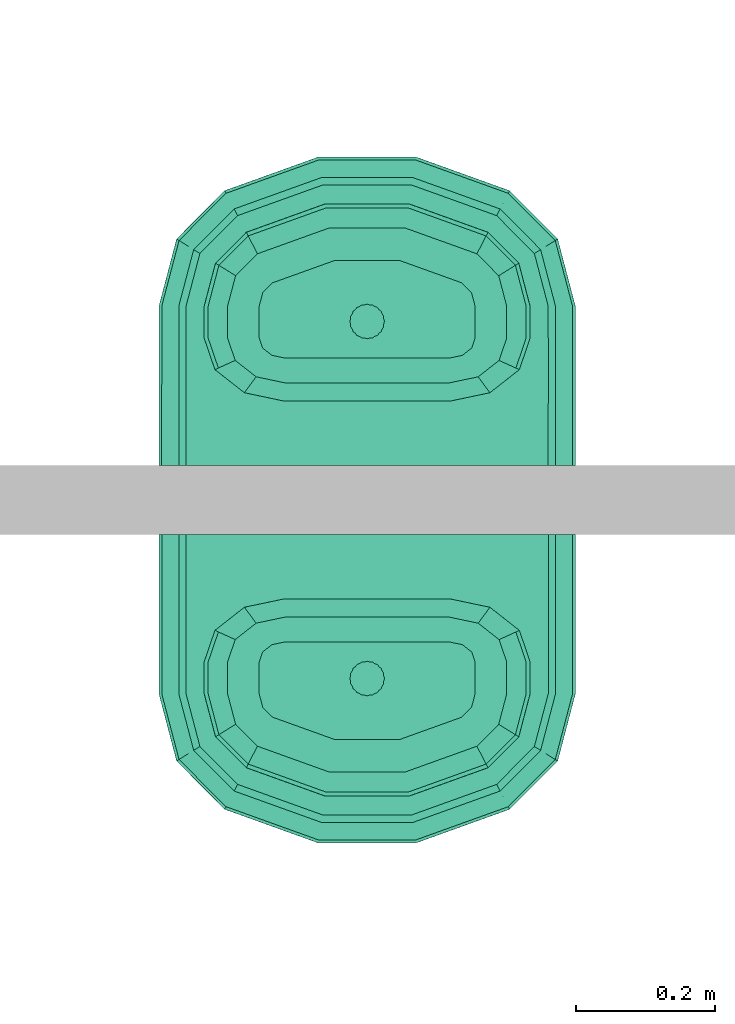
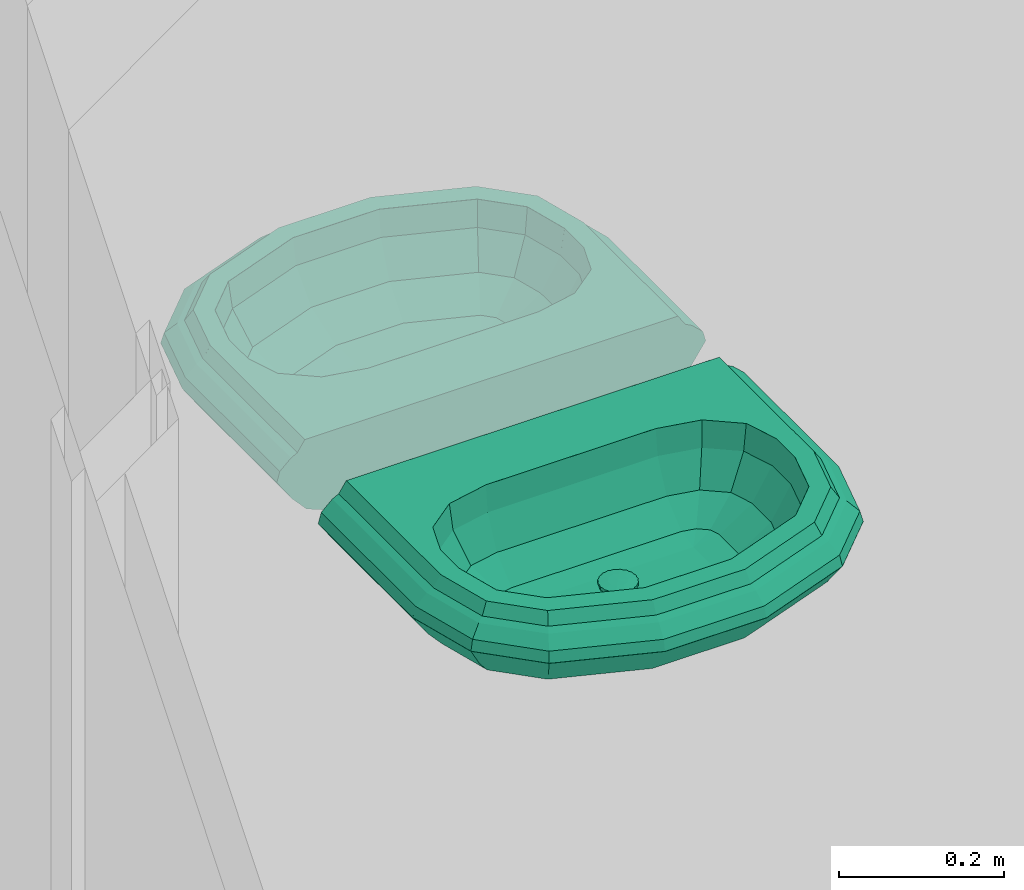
# One storey, part 22 of 25: 2 distribution flow elements.
"""IFC2X3 building model written with IfcOpenShell, lengths in millimetres."""

from ifc_helpers import new_model, entity, si_unit, converted_unit, derived_unit, money_unit, direction, frame, origin_with_axes, place, context, subcontext, project, spatial, open_shell, faceted_brep, surface_model, source, transform, mapped, type_object, element, save


model = new_model("IFC2X3")

# Units and contexts
model_context = context("Model", 3, precision=0.01, world=origin_with_axes(), true_north=direction((0.0, 1.0)))
body_context = subcontext(model_context, "Body", "Model", "MODEL_VIEW")
ifc_project = project(units=[si_unit("LENGTHUNIT", "METRE", prefix="MILLI"), si_unit("AREAUNIT", "SQUARE_METRE"), si_unit("VOLUMEUNIT", "CUBIC_METRE"), converted_unit("PLANEANGLEUNIT", "DEGREE", entity("IfcPlaneAngleMeasure", 0.0174532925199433), si_unit("PLANEANGLEUNIT", "RADIAN"), dimensions=[0, 0, 0, 0, 0, 0, 0]), money_unit("USD"), converted_unit("TIMEUNIT", "Year", entity("IfcTimeMeasure", 31557600.0), si_unit("TIMEUNIT", "SECOND"), dimensions=[0, 0, 1, 0, 0, 0, 0]), si_unit("MASSUNIT", "GRAM", prefix="KILO"), si_unit("THERMODYNAMICTEMPERATUREUNIT", "DEGREE_CELSIUS"), si_unit("LUMINOUSINTENSITYUNIT", "LUMEN"), si_unit("ENERGYUNIT", "JOULE", prefix="MEGA"), derived_unit("THERMALCONDUCTANCEUNIT", [(si_unit("POWERUNIT", "WATT"), 1), (si_unit("LENGTHUNIT", "METRE"), -1), (si_unit("THERMODYNAMICTEMPERATUREUNIT", "KELVIN"), -1)]), derived_unit("SPECIFICHEATCAPACITYUNIT", [(si_unit("ENERGYUNIT", "JOULE"), 1), (si_unit("MASSUNIT", "GRAM", prefix="KILO"), -1), (si_unit("THERMODYNAMICTEMPERATUREUNIT", "KELVIN"), -1)]), derived_unit("MASSDENSITYUNIT", [(si_unit("MASSUNIT", "GRAM", prefix="KILO"), 1), (si_unit("VOLUMEUNIT", "CUBIC_METRE"), -1)])], contexts=[model_context])

# Site, building, storey
site_placement = place(None, origin_with_axes())
site = spatial("IfcSite", under=ifc_project, at=site_placement, Name="Site", CompositionType="ELEMENT")
building_placement = place(site_placement, origin_with_axes())
building = spatial("IfcBuilding", under=site, at=building_placement, Name="Building", CompositionType="ELEMENT")
storey_placement = place(building_placement, origin_with_axes())
storey = spatial("IfcBuildingStorey", under=building, at=storey_placement, Name="U ETG", CompositionType="ELEMENT", Elevation=0.0)

# Distribution flow elements
valve_type = type_object("IfcValveType", Name="Servant", PredefinedType="USERDEFINED")
shared_shape = source(origin_with_axes(), body_context, "Body", "SurfaceModel", [
    surface_model("IfcShellBasedSurfaceModel", [(118.8260869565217, -229.090909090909, 880.0), (150.3400994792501, -248.7018865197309, 885.6030000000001), (155.5004347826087, -229.090909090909, 885.6030000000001), (136.3112835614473, -262.7940626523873, 885.6030000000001), (189.4667012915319, -273.050131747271, 916.175), (201.0339130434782, -229.090909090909, 916.175), (158.0202400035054, -304.6386188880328, 916.175), (213.508226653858, -288.0110260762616, 962.175), (229.0121739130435, -229.090909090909, 962.175), (171.3594108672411, -330.3502041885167, 962.175), (218.3546395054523, -291.0269191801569, 999.9), (234.6521739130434, -229.090909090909, 999.9), (174.0483887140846, -335.5332762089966, 999.9), (218.4667212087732, -291.0966669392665, 1000.0), (234.7826086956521, -229.090909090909, 1000.0), (174.1105759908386, -335.653143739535, 1000.0), (218.5788029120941, -291.166414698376, 1000.0), (234.9130434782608, -229.090909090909, 1000.0), (174.1727632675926, -335.7730112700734, 1000.0), (240.7485638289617, -304.9625214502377, 1000.0), (260.7130434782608, -229.090909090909, 1000.0), (186.4734066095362, -359.4828088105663, 1000.0), (240.8606455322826, -305.0322692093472, 1000.0), (260.8434782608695, -229.090909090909, 1000.0), (186.5355938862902, -359.6026763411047, 1000.0), (240.9727272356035, -305.1020169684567, 999.9), (260.9739130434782, -229.090909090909, 999.9), (186.5977811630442, -359.722543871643, 999.9), (249.8473565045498, -310.624644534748, 984.298), (271.3017391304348, -229.090909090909, 984.298), (191.5217697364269, -369.2136549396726, 984.298), (257.4543417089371, -315.3584249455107, 979.6479999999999), (280.154347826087, -229.090909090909, 979.6479999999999), (195.7424202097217, -377.3490642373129, 979.6479999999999), (270.9153542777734, -323.7351308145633, 965.175), (295.8195652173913, -229.090909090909, 965.175), (203.2111121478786, -391.7451546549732, 965.175), (274.3708331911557, -325.8854542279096, 950.0999999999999), (299.8408695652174, -229.090909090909, 950.0999999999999), (205.1283458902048, -395.4406706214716, 950.0999999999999), (274.4829148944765, -325.9552019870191, 950.0), (299.971304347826, -229.090909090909, 950.0), (205.1905331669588, -395.56053815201, 950.0), (274.3708331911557, -325.8854542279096, 949.9), (299.8408695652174, -229.090909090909, 949.9), (205.1283458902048, -395.4406706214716, 949.9), (255.6946589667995, -314.2633851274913, 918.1), (278.1065217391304, -229.090909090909, 918.1), (194.7660799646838, -375.4671440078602, 918.1), (238.8420540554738, -303.7761120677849, 896.627), (258.4943478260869, -229.090909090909, 896.627), (185.4156010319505, -357.4438621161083, 896.627), (174.0565879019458, -263.460512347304, 866.162), (183.1004347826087, -229.090909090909, 866.162), (149.4701113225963, -288.1580321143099, 866.162), (118.8260869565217, -229.090909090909, 860.0)], [open_shell([[[0, 1, 2]], [[0, 3, 1]], [[1, 4, 5, 2]], [[3, 6, 4, 1]], [[4, 7, 8, 5]], [[6, 9, 7, 4]], [[7, 10, 11, 8]], [[9, 12, 10, 7]], [[10, 13, 14, 11]], [[12, 15, 13, 10]], [[13, 16, 17, 14]], [[15, 18, 16, 13]], [[16, 19, 20, 17]], [[18, 21, 19, 16]], [[19, 22, 23, 20]], [[21, 24, 22, 19]], [[22, 25, 26, 23]], [[24, 27, 25, 22]], [[25, 28, 29, 26]], [[27, 30, 28, 25]], [[28, 31, 32, 29]], [[30, 33, 31, 28]], [[31, 34, 35, 32]], [[33, 36, 34, 31]], [[34, 37, 38, 35]], [[36, 39, 37, 34]], [[37, 40, 41, 38]], [[39, 42, 40, 37]], [[40, 43, 44, 41]], [[42, 45, 43, 40]], [[43, 46, 47, 44]], [[45, 48, 46, 43]], [[46, 49, 50, 47]], [[48, 51, 49, 46]], [[49, 52, 53, 50]], [[51, 54, 52, 49]], [[52, 55, 53]], [[54, 55, 52]]])]),
    surface_model("IfcShellBasedSurfaceModel", [(-118.8260869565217, -229.090909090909, 880.0), (-150.3400994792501, -248.7018865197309, 885.6030000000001), (-136.3112835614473, -262.7940626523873, 885.6030000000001), (-155.5004347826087, -229.090909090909, 885.6030000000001), (-189.4667012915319, -273.050131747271, 916.175), (-158.0202400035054, -304.6386188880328, 916.175), (-201.0339130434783, -229.0909090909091, 916.175), (-213.508226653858, -288.0110260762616, 962.175), (-171.3594108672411, -330.3502041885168, 962.175), (-229.0121739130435, -229.0909090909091, 962.175), (-218.3546395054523, -291.026919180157, 999.9), (-174.0483887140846, -335.5332762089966, 999.9), (-234.6521739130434, -229.0909090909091, 999.9), (-218.4667212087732, -291.0966669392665, 1000.0), (-174.1105759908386, -335.653143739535, 1000.0), (-234.7826086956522, -229.0909090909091, 1000.0), (-218.5788029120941, -291.166414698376, 1000.0), (-174.1727632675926, -335.7730112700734, 1000.0), (-234.9130434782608, -229.0909090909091, 1000.0), (-240.7485638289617, -304.9625214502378, 1000.0), (-186.4734066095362, -359.4828088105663, 1000.0), (-260.7130434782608, -229.0909090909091, 1000.0), (-240.8606455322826, -305.0322692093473, 1000.0), (-186.5355938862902, -359.6026763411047, 1000.0), (-260.8434782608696, -229.0909090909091, 1000.0), (-240.9727272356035, -305.1020169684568, 999.9), (-186.5977811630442, -359.7225438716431, 999.9), (-260.9739130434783, -229.0909090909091, 999.9), (-249.8473565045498, -310.6246445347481, 984.298), (-191.5217697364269, -369.2136549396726, 984.298), (-271.3017391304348, -229.0909090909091, 984.298), (-257.4543417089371, -315.3584249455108, 979.6479999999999), (-195.7424202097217, -377.3490642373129, 979.6479999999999), (-280.154347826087, -229.0909090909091, 979.6479999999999), (-270.9153542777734, -323.7351308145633, 965.175), (-203.2111121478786, -391.7451546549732, 965.175), (-295.8195652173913, -229.0909090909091, 965.175), (-274.3708331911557, -325.8854542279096, 950.0999999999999), (-205.1283458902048, -395.4406706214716, 950.0999999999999), (-299.8408695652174, -229.0909090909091, 950.0999999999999), (-274.4829148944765, -325.9552019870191, 950.0), (-205.1905331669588, -395.56053815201, 950.0), (-299.971304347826, -229.0909090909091, 950.0), (-274.3708331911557, -325.8854542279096, 949.9), (-205.1283458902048, -395.4406706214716, 949.9), (-299.8408695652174, -229.0909090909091, 949.9), (-255.6946589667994, -314.2633851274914, 918.1), (-194.7660799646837, -375.4671440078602, 918.1), (-278.1065217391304, -229.0909090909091, 918.1), (-238.8420540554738, -303.776112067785, 896.627), (-185.4156010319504, -357.4438621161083, 896.627), (-258.4943478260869, -229.0909090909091, 896.627), (-174.0565879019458, -263.460512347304, 866.162), (-149.4701113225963, -288.1580321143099, 866.162), (-183.1004347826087, -229.090909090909, 866.162), (-118.8260869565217, -229.090909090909, 860.0)], [open_shell([[[0, 1, 2]], [[0, 3, 1]], [[1, 4, 5, 2]], [[3, 6, 4, 1]], [[4, 7, 8, 5]], [[6, 9, 7, 4]], [[7, 10, 11, 8]], [[9, 12, 10, 7]], [[10, 13, 14, 11]], [[12, 15, 13, 10]], [[13, 16, 17, 14]], [[15, 18, 16, 13]], [[16, 19, 20, 17]], [[18, 21, 19, 16]], [[19, 22, 23, 20]], [[21, 24, 22, 19]], [[22, 25, 26, 23]], [[24, 27, 25, 22]], [[25, 28, 29, 26]], [[27, 30, 28, 25]], [[28, 31, 32, 29]], [[30, 33, 31, 28]], [[31, 34, 35, 32]], [[33, 36, 34, 31]], [[34, 37, 38, 35]], [[36, 39, 37, 34]], [[37, 40, 41, 38]], [[39, 42, 40, 37]], [[40, 43, 44, 41]], [[42, 45, 43, 40]], [[43, 46, 47, 44]], [[45, 48, 46, 43]], [[46, 49, 50, 47]], [[48, 51, 49, 46]], [[49, 52, 53, 50]], [[51, 54, 52, 49]], [[52, 55, 53]], [[54, 55, 52]]])]),
    surface_model("IfcShellBasedSurfaceModel", [(41.10372390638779, -257.0233893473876, 880.0), (47.15141310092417, -294.8398552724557, 885.6030000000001), (136.325082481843, -262.7700044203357, 885.6030000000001), (118.8398858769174, -229.0668508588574, 880.0), (-41.10329481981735, -257.0234643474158, 880.0), (-47.15092088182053, -294.8399413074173, 885.6030000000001), (54.65999446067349, -341.7913440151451, 916.175), (158.0340389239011, -304.6145606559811, 916.175), (-118.8395034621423, -229.0670677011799, 880.0), (-136.3246438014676, -262.7702531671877, 885.6030000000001), (-54.65942385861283, -341.7914437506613, 916.175), (59.27367775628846, -370.6409081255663, 962.175), (171.3732097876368, -330.3261459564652, 962.175), (-158.033530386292, -304.614849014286, 916.175), (-59.27305899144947, -370.6410162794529, 962.175), (60.2037274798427, -376.4565498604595, 999.9), (174.0621876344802, -335.509217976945, 999.9), (-171.3726583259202, -330.3264586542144, 962.175), (-60.20309900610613, -376.4566597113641, 999.9), (60.22523649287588, -376.5910466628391, 1000.0), (174.1243749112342, -335.6290855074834, 1000.0), (-174.061627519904, -335.5095355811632, 999.9), (-60.2246077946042, -376.5911565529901, 1000.0), (60.24674550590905, -376.7255434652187, 1000.0), (174.1865621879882, -335.7489530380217, 1000.0), (-174.1238145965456, -335.629403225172, 1000.0), (-60.24611658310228, -376.7256533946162, 1000.0), (64.5055300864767, -403.3559103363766, 1000.0), (186.4996429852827, -359.4827240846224, 1000.0), (-174.1860016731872, -335.749270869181, 1000.0), (-64.50485670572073, -403.3560280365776, 1000.0), (64.52703909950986, -403.4904071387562, 1000.0), (186.5618302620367, -359.6025916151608, 1000.0), (-186.4990428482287, -359.4830643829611, 1000.0), (-64.52636549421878, -403.4905248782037, 1000.0), (64.54854811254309, -403.6249039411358, 999.9), (186.6240175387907, -359.7224591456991, 999.9), (-186.5612299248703, -359.6029320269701, 1000.0), (-64.54787428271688, -403.6250217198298, 999.9), (66.24732996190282, -414.2474613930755, 984.298), (191.5355686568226, -369.189596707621, 984.298), (-186.623417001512, -359.7227996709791, 999.9), (-66.24663839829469, -414.2475822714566, 984.298), (67.70714667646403, -423.3757593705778, 979.6479999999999), (195.7562191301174, -377.3250060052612, 979.6479999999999), (-191.5349523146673, -369.1899461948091, 984.298), (-67.70643987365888, -423.3758829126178, 979.6479999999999), (70.29037914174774, -439.528825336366, 965.175), (203.2249110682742, -391.7210964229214, 965.175), (-195.7555892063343, -377.3253631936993, 979.6479999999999), (-70.28964537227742, -439.5289535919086, 965.175), (70.95350201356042, -443.6753617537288, 950.0999999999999), (205.1421448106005, -395.4166123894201, 950.0999999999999), (-203.2242571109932, -391.7214672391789, 965.175), (-70.95276132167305, -443.6754912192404, 950.0999999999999), (70.97501102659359, -443.8098585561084, 950.0), (205.2043320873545, -395.5364799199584, 950.0), (-205.1414846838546, -395.4169867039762, 950.0999999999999), (-70.9742701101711, -443.8099880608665, 950.0), (70.95350201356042, -443.6753617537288, 949.9), (205.1421448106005, -395.4166123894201, 949.9), (-205.2036717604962, -395.5368543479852, 950.0), (-70.95276132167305, -443.6754912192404, 949.9), (67.36945517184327, -421.2641595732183, 918.1), (194.7798788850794, -375.4430857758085, 918.1), (-205.1414846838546, -395.4169867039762, 949.9), (-67.36875189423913, -421.2642824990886, 918.1), (64.13535997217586, -401.0412203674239, 896.627), (185.4293999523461, -357.4198038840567, 896.627), (-194.7792521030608, -375.4434411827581, 918.1), (-64.13469045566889, -401.041337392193, 896.627), (51.70272025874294, -323.2993786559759, 866.162), (149.483910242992, -288.1339738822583, 866.162), (-185.4288032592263, -357.4201422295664, 896.627), (-51.70218052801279, -323.2994729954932, 866.162), (41.10372390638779, -257.0233893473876, 860.0), (118.8398858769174, -229.0668508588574, 860.0), (-149.4834292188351, -288.13424663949, 866.162), (-41.10329481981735, -257.0234643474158, 860.0), (-118.8395034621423, -229.0670677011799, 860.0)], [open_shell([[[0, 1, 2, 3]], [[4, 5, 1, 0]], [[1, 6, 7, 2]], [[8, 9, 5, 4]], [[5, 10, 6, 1]], [[6, 11, 12, 7]], [[9, 13, 10, 5]], [[10, 14, 11, 6]], [[11, 15, 16, 12]], [[13, 17, 14, 10]], [[14, 18, 15, 11]], [[15, 19, 20, 16]], [[17, 21, 18, 14]], [[18, 22, 19, 15]], [[19, 23, 24, 20]], [[21, 25, 22, 18]], [[22, 26, 23, 19]], [[23, 27, 28, 24]], [[25, 29, 26, 22]], [[26, 30, 27, 23]], [[27, 31, 32, 28]], [[29, 33, 30, 26]], [[30, 34, 31, 27]], [[31, 35, 36, 32]], [[33, 37, 34, 30]], [[34, 38, 35, 31]], [[35, 39, 40, 36]], [[37, 41, 38, 34]], [[38, 42, 39, 35]], [[39, 43, 44, 40]], [[41, 45, 42, 38]], [[42, 46, 43, 39]], [[43, 47, 48, 44]], [[45, 49, 46, 42]], [[46, 50, 47, 43]], [[47, 51, 52, 48]], [[49, 53, 50, 46]], [[50, 54, 51, 47]], [[51, 55, 56, 52]], [[53, 57, 54, 50]], [[54, 58, 55, 51]], [[55, 59, 60, 56]], [[57, 61, 58, 54]], [[58, 62, 59, 55]], [[59, 63, 64, 60]], [[61, 65, 62, 58]], [[62, 66, 63, 59]], [[63, 67, 68, 64]], [[65, 69, 66, 62]], [[66, 70, 67, 63]], [[67, 71, 72, 68]], [[69, 73, 70, 66]], [[70, 74, 71, 67]], [[71, 75, 76, 72]], [[73, 77, 74, 70]], [[74, 78, 75, 71]], [[77, 79, 78, 74]]])]),
    surface_model("IfcShellBasedSurfaceModel", [(118.8260869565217, -183.2727272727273, 860.0), (118.8260869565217, -229.0909090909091, 860.0), (183.1004347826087, -229.0909090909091, 866.162), (183.1004347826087, -183.2727272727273, 866.162), (258.4943478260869, -229.0909090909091, 896.627), (258.4943478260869, -183.2727272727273, 896.627), (278.1065217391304, -229.0909090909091, 918.1), (278.1065217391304, -183.2727272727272, 918.1), (299.971304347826, -229.090909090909, 950.0), (299.971304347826, -183.2727272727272, 950.0), (295.8195652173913, -229.090909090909, 965.175), (295.8195652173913, -183.2727272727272, 965.175), (280.154347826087, -229.090909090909, 979.6479999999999), (280.154347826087, -183.2727272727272, 979.6479999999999), (271.3017391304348, -229.090909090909, 984.298), (271.3017391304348, -183.2727272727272, 984.298), (260.8434782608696, -229.090909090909, 1000.0), (260.8434782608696, -183.2727272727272, 1000.0), (234.7826086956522, -229.090909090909, 1000.0), (234.7826086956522, -183.2727272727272, 1000.0), (229.0121739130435, -229.0909090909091, 962.175), (229.0121739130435, -183.2727272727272, 962.175), (201.0339130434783, -229.0909090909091, 916.175), (201.0339130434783, -183.2727272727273, 916.175), (155.5004347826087, -229.0909090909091, 885.6030000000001), (155.5004347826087, -183.2727272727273, 885.6030000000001), (118.8260869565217, -229.0909090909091, 880.0), (118.8260869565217, -183.2727272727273, 880.0)], [open_shell([[[0, 1, 2, 3]], [[3, 2, 4, 5]], [[5, 4, 6, 7]], [[7, 6, 8, 9]], [[9, 8, 10, 11]], [[11, 10, 12, 13]], [[13, 12, 14, 15]], [[15, 14, 16, 17]], [[17, 16, 18, 19]], [[19, 18, 20, 21]], [[21, 20, 22, 23]], [[23, 22, 24, 25]], [[25, 24, 26, 27]]])]),
    surface_model("IfcShellBasedSurfaceModel", [(-118.8260869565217, -183.2727272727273, 860.0), (-183.1004347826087, -183.2727272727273, 866.162), (-183.1004347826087, -229.0909090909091, 866.162), (-118.8260869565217, -229.0909090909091, 860.0), (-258.4943478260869, -183.2727272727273, 896.627), (-258.4943478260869, -229.0909090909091, 896.627), (-278.1065217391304, -183.2727272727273, 918.1), (-278.1065217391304, -229.0909090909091, 918.1), (-299.971304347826, -183.2727272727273, 950.0), (-299.971304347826, -229.0909090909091, 950.0), (-295.8195652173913, -183.2727272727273, 965.175), (-295.8195652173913, -229.0909090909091, 965.175), (-280.154347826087, -183.2727272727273, 979.6479999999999), (-280.154347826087, -229.0909090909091, 979.6479999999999), (-271.3017391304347, -183.2727272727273, 984.298), (-271.3017391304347, -229.0909090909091, 984.298), (-260.8434782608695, -183.2727272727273, 1000.0), (-260.8434782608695, -229.0909090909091, 1000.0), (-234.7826086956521, -183.2727272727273, 1000.0), (-234.7826086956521, -229.0909090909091, 1000.0), (-229.0121739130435, -183.2727272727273, 962.175), (-229.0121739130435, -229.0909090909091, 962.175), (-201.0339130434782, -183.2727272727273, 916.175), (-201.0339130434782, -229.0909090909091, 916.175), (-155.5004347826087, -183.2727272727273, 885.6030000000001), (-155.5004347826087, -229.0909090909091, 885.6030000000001), (-118.8260869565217, -183.2727272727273, 880.0), (-118.8260869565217, -229.0909090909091, 880.0)], [open_shell([[[0, 1, 2, 3]], [[1, 4, 5, 2]], [[4, 6, 7, 5]], [[6, 8, 9, 7]], [[8, 10, 11, 9]], [[10, 12, 13, 11]], [[12, 14, 15, 13]], [[14, 16, 17, 15]], [[16, 18, 19, 17]], [[18, 20, 21, 19]], [[20, 22, 23, 21]], [[22, 24, 25, 23]], [[24, 26, 27, 25]]])]),
    surface_model("IfcShellBasedSurfaceModel", [(118.8260869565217, 0.0, 860.0), (118.8260869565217, -183.2727272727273, 860.0), (183.1004347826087, -183.2727272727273, 866.162), (183.1004347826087, 0.0, 866.162), (258.4943478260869, -183.2727272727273, 896.627), (258.4943478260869, 0.0, 896.627), (278.1065217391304, -183.2727272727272, 918.1), (278.1065217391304, 0.0, 918.1), (299.971304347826, -183.2727272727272, 950.0), (299.971304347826, 0.0, 950.0), (295.8195652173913, -183.2727272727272, 965.175), (295.8195652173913, 0.0, 965.175), (280.154347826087, -183.2727272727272, 979.6479999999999), (280.154347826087, 0.0, 979.6479999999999), (271.3017391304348, -183.2727272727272, 984.298), (271.3017391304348, 0.0, 984.298), (260.8434782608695, -183.2727272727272, 1000.0), (260.8434782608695, 0.0, 1000.0)], [open_shell([[[0, 1, 2, 3]], [[3, 2, 4, 5]], [[5, 4, 6, 7]], [[7, 6, 8, 9]], [[9, 8, 10, 11]], [[11, 10, 12, 13]], [[13, 12, 14, 15]], [[15, 14, 16, 17]]])]),
    surface_model("IfcShellBasedSurfaceModel", [(-118.8260869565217, 0.0, 860.0), (-183.1004347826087, 0.0, 866.162), (-183.1004347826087, -183.2727272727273, 866.162), (-118.8260869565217, -183.2727272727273, 860.0), (-258.4943478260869, 0.0, 896.627), (-258.4943478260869, -183.2727272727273, 896.627), (-278.1065217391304, 0.0, 918.1), (-278.1065217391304, -183.2727272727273, 918.1), (-299.971304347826, 0.0, 950.0), (-299.971304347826, -183.2727272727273, 950.0), (-295.8195652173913, 0.0, 965.175), (-295.8195652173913, -183.2727272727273, 965.175), (-280.154347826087, 0.0, 979.6479999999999), (-280.154347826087, -183.2727272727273, 979.6479999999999), (-271.3017391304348, 0.0, 984.298), (-271.3017391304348, -183.2727272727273, 984.298), (-260.8434782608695, 0.0, 1000.0), (-260.8434782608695, -183.2727272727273, 1000.0)], [open_shell([[[0, 1, 2, 3]], [[1, 4, 5, 2]], [[4, 6, 7, 5]], [[6, 8, 9, 7]], [[8, 10, 11, 9]], [[10, 12, 13, 11]], [[12, 14, 15, 13]], [[14, 16, 17, 15]]])]),
    surface_model("IfcShellBasedSurfaceModel", [(118.8260869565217, 0.0, 860.0), (118.8260869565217, -229.090909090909, 860.0), (41.09823689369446, -257.0388174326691, 860.0), (-41.0982368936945, -257.0388174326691, 860.0), (-118.8260869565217, -229.090909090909, 860.0), (-118.8260869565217, 0.0, 860.0)], [open_shell([[[0, 1, 2, 3, 4, 5]]])]),
    surface_model("IfcShellBasedSurfaceModel", [(118.8379695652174, 0.0, 860.0), (-118.8379695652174, 0.0, 860.0), (-183.118744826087, 0.0, 866.1626162), (-258.5201972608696, 0.0, 896.6306627), (-278.1343323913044, 0.0, 918.10581), (-300.0013014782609, 0.0, 950.009), (-295.849147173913, 0.0, 965.1855175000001), (-280.1823632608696, 0.0, 979.6599647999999), (-271.3288693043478, 0.0, 984.3104298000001), (-260.8695626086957, 0.0, 1000.014), (260.8695626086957, 0.0, 1000.014), (271.3288693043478, 0.0, 984.3104298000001), (280.1823632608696, 0.0, 979.6599647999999), (295.849147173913, 0.0, 965.1855175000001), (300.0013014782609, 0.0, 950.009), (278.1343323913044, 0.0, 918.10581), (258.5201972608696, 0.0, 896.6306627), (183.118744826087, 0.0, 866.1626162)], [open_shell([[[0, 1, 2, 3, 4, 5, 6, 7, 8, 9, 10, 11, 12, 13, 14, 15, 16, 17]]])]),
    surface_model("IfcShellBasedSurfaceModel", [(118.8260869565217, -182.7272727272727, 880.0), (118.8260869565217, -229.090909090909, 880.0), (41.09823689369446, -257.0388174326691, 880.0), (-41.0982368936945, -257.0388174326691, 880.0), (-118.8260869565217, -229.090909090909, 880.0), (-118.8260869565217, -182.7272727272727, 880.0), (-22.82608695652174, -207.1363636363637, 880.0), (-21.70889874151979, -214.5106328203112, 880.0), (-18.46669226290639, -221.1630571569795, 880.0), (-13.41683728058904, -226.4424510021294, 880.0), (-7.05364878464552, -229.832030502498, 880.0), (0.0, -231.0, 880.0), (7.053648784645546, -229.8320305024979, 880.0), (13.41683728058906, -226.4424510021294, 880.0), (18.4666922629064, -221.1630571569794, 880.0), (21.7088987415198, -214.5106328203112, 880.0), (22.82608695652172, -207.1363636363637, 880.0), (21.70889874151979, -199.762094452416, 880.0), (18.4666922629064, -193.1096701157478, 880.0), (13.41683728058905, -187.8302762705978, 880.0), (7.053648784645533, -184.4406967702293, 880.0), (0.0, -183.2727272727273, 880.0), (-7.053648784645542, -184.4406967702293, 880.0), (-13.41683728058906, -187.8302762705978, 880.0), (-18.46669226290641, -193.1096701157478, 880.0), (-21.70889874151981, -199.762094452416, 880.0)], [open_shell([[[0, 1, 2, 3, 4, 5], [6, 7, 8, 9, 10, 11, 12, 13, 14, 15, 16, 17, 18, 19, 20, 21, 22, 23, 24, 25]]])]),
    surface_model("IfcShellBasedSurfaceModel", [(260.8695652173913, -183.2391344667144, 1000.0), (234.7826086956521, -183.2391344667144, 1000.0), (219.2473805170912, -137.7618617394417, 1000.0), (176.8043478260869, -104.4701875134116, 1000.0), (118.8260869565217, -92.28458901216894, 1000.0), (-118.8260869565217, -92.28458901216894, 1000.0), (-176.8043478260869, -104.4701875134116, 1000.0), (-219.2473805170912, -137.7618617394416, 1000.0), (-234.7826086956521, -183.2391344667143, 1000.0), (-260.8695652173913, -183.2391344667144, 1000.0), (-260.8695652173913, 4.141527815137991e-07, 1000.0), (260.8695652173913, 4.141527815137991e-07, 1000.0)], [open_shell([[[0, 1, 2, 3, 4, 5, 6, 7, 8, 9, 10, 11]]])]),
    surface_model("IfcShellBasedSurfaceModel", [(176.8043478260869, -104.5037803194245, 1000.0), (173.9191304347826, -108.4236208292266, 962.175), (118.8260869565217, -96.84442376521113, 962.175), (118.8260869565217, -92.3181818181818, 1000.0), (219.2473805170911, -137.7954545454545, 1000.0), (214.2500374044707, -140.0585755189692, 962.175), (159.9299999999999, -127.4291766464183, 916.175), (118.8260869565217, -118.7901492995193, 916.175), (234.7826086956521, -183.2727272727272, 1000.0), (229.0121739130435, -183.2727272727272, 962.175), (190.0201527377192, -151.0314382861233, 916.175), (137.1632608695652, -158.3599434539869, 885.6030000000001), (118.8260869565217, -154.5059223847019, 885.6030000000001), (201.0339130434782, -183.2727272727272, 916.175), (150.5870038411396, -168.8893248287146, 885.6030000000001), (118.8260869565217, -183.2727272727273, 880.0), (155.5004347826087, -183.2727272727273, 885.6030000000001)], [open_shell([[[0, 1, 2, 3]], [[4, 5, 1, 0]], [[1, 6, 7, 2]], [[8, 9, 5, 4]], [[5, 10, 6, 1]], [[6, 11, 12, 7]], [[9, 13, 10, 5]], [[10, 14, 11, 6]], [[11, 15, 12]], [[13, 16, 14, 10]], [[14, 15, 11]], [[16, 15, 14]]])]),
    surface_model("IfcShellBasedSurfaceModel", [(-219.2473805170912, -137.7954545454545, 1000.0), (-214.2500374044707, -140.0585755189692, 962.175), (-229.0121739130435, -183.2727272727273, 962.175), (-234.7826086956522, -183.2727272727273, 1000.0), (-176.8043478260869, -104.5037803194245, 1000.0), (-173.9191304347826, -108.4236208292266, 962.175), (-190.0201527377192, -151.0314382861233, 916.175), (-201.0339130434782, -183.2727272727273, 916.175), (-118.8260869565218, -92.3181818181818, 1000.0), (-118.8260869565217, -96.84442376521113, 962.175), (-159.93, -127.4291766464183, 916.175), (-150.5870038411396, -168.8893248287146, 885.6030000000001), (-155.5004347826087, -183.2727272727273, 885.6030000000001), (-118.8260869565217, -118.7901492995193, 916.175), (-137.1632608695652, -158.3599434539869, 885.6030000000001), (-118.8260869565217, -183.2727272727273, 880.0), (-118.8260869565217, -154.5059223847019, 885.6030000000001)], [open_shell([[[0, 1, 2, 3]], [[4, 5, 1, 0]], [[1, 6, 7, 2]], [[8, 9, 5, 4]], [[5, 10, 6, 1]], [[6, 11, 12, 7]], [[9, 13, 10, 5]], [[10, 14, 11, 6]], [[11, 15, 12]], [[13, 16, 14, 10]], [[14, 15, 11]], [[16, 15, 14]]])]),
    surface_model("IfcShellBasedSurfaceModel", [(-118.8260869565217, -92.3181818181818, 1000.0), (118.8260869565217, -92.3181818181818, 1000.0), (118.8260869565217, -96.84442376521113, 962.175), (-118.8260869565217, -96.84442376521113, 962.175), (118.8260869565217, -118.7901492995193, 916.175), (-118.8260869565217, -118.7901492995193, 916.175), (118.8260869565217, -154.5059223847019, 885.6030000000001), (-118.8260869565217, -154.5059223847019, 885.6030000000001), (118.8260869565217, -183.2727272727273, 880.0), (-118.8260869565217, -183.2727272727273, 880.0)], [open_shell([[[0, 1, 2, 3]], [[3, 2, 4, 5]], [[5, 4, 6, 7]], [[7, 6, 8, 9]]])]),
    faceted_brep([(-20.22542485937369, -221.8296313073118, 881.0), (-25.0, -207.135, 881.0), (-20.22542485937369, -192.4403686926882, 881.0), (-7.725424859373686, -183.3585870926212, 881.0), (7.725424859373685, -183.3585870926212, 881.0), (20.22542485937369, -192.4403686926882, 881.0), (25.0, -207.135, 881.0), (20.22542485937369, -221.8296313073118, 881.0), (7.725424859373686, -230.9114129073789, 881.0), (-7.725424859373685, -230.9114129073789, 881.0), (-20.22542485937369, -221.8296313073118, 886.0), (-25.0, -207.135, 886.0), (-20.22542485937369, -192.4403686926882, 886.0), (-7.725424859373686, -183.3585870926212, 886.0), (7.725424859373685, -183.3585870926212, 886.0), (20.22542485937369, -192.4403686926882, 886.0), (25.0, -207.135, 886.0), (20.22542485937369, -221.8296313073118, 886.0), (7.725424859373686, -230.9114129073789, 886.0), (-7.725424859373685, -230.9114129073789, 886.0)], [[[0, 1, 2, 3, 4, 5, 6, 7, 8, 9]], [[0, 10, 11, 1]], [[1, 11, 12, 2]], [[2, 12, 13, 3]], [[3, 13, 14, 4]], [[4, 14, 15, 5]], [[5, 15, 16, 6]], [[6, 16, 17, 7]], [[7, 17, 18, 8]], [[8, 18, 19, 9]], [[9, 19, 10, 0]], [[10, 19, 18, 17, 16, 15, 14, 13, 12, 11]]]),
    surface_model("IfcShellBasedSurfaceModel", [(0.0, -207.135, 888.0), (7.418969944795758, -196.9236638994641, 887.4975737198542), (0.0, -194.51309443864, 887.4975737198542), (12.00414553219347, -203.2346166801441, 887.4975737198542), (14.69463130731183, -186.9095751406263, 886.0), (0.0, -182.135, 886.0), (-7.418969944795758, -196.9236638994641, 887.4975737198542), (12.00414553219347, -211.0353833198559, 887.4975737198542), (23.77641290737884, -199.4095751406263, 886.0), (-14.69463130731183, -186.9095751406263, 886.0), (-12.00414553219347, -203.2346166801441, 887.4975737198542), (7.418969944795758, -217.3463361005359, 887.4975737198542), (23.77641290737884, -214.8604248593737, 886.0), (-23.77641290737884, -199.4095751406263, 886.0), (-12.00414553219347, -211.0353833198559, 887.4975737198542), (0.0, -219.75690556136, 887.4975737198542), (14.69463130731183, -227.3604248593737, 886.0), (-23.77641290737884, -214.8604248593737, 886.0), (-7.418969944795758, -217.3463361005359, 887.4975737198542), (0.0, -232.135, 886.0), (-14.69463130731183, -227.3604248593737, 886.0)], [open_shell([[[0, 1, 2]], [[0, 3, 1]], [[1, 4, 5, 2]], [[0, 2, 6]], [[0, 7, 3]], [[3, 8, 4, 1]], [[2, 5, 9, 6]], [[0, 6, 10]], [[0, 11, 7]], [[7, 12, 8, 3]], [[6, 9, 13, 10]], [[0, 10, 14]], [[0, 15, 11]], [[11, 16, 12, 7]], [[10, 13, 17, 14]], [[0, 14, 18]], [[0, 18, 15]], [[15, 19, 16, 11]], [[14, 17, 20, 18]], [[18, 20, 19, 15]]])]),
])
for number, where, z_axis, x_axis, name in (
    (1, (69188.58468189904, 1179.751775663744, 0.0), (0.0, 0.0, 1.0), (0.9999999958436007, -9.117455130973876e-05, 0.0), "FU - 001"),
    (2, (69188.52304436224, 1279.766429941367, 0.0), (0.0, 0.0, 1.0), (-0.999999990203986, 0.0001399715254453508, 0.0), "FU - 001"),
):
    element("IfcDistributionFlowElement", number, at=place(storey_placement, frame(where, z_axis=z_axis, x_axis=x_axis)), inside=storey, type_object=valve_type, Name=name, ObjectType="Distribution Flow Element", context=body_context, shape_type="MappedRepresentation", body=[
        mapped(shared_shape, transform((0.0, 0.0, 0.0))),
    ])

save(model, "model.ifc")
